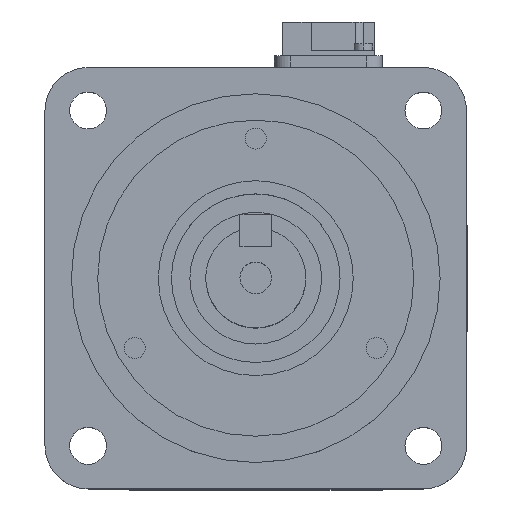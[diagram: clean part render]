
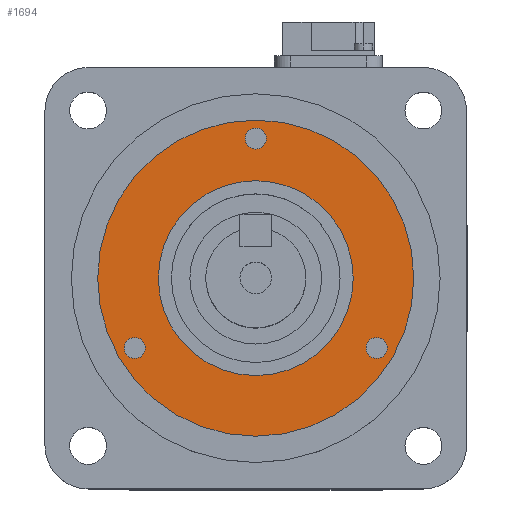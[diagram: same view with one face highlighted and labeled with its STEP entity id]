
A CAD part, top view. The second image highlights one B-rep face of the part: STEP entity #1694.
In plain terms, the highlighted planar face has unit normal (0, 0, 1).
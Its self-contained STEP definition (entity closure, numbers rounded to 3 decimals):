
#1672 = ORIENTED_EDGE ( 'NONE', *, *, #1673, .T. ) ;
#1673 = EDGE_CURVE ( 'NONE', #5113, #5112, #8301, .T. ) ;
#1674 = ORIENTED_EDGE ( 'NONE', *, *, #5111, .T. ) ;
#1675 = EDGE_LOOP ( 'NONE', ( #1676, #1678 ) ) ;
#1676 = ORIENTED_EDGE ( 'NONE', *, *, #1677, .F. ) ;
#1677 = EDGE_CURVE ( 'NONE', #5102, #5099, #8296, .T. ) ;
#1678 = ORIENTED_EDGE ( 'NONE', *, *, #5101, .F. ) ;
#1679 = EDGE_LOOP ( 'NONE', ( #1680, #1682 ) ) ;
#1680 = ORIENTED_EDGE ( 'NONE', *, *, #1681, .F. ) ;
#1681 = EDGE_CURVE ( 'NONE', #5049, #5046, #8291, .T. ) ;
#1682 = ORIENTED_EDGE ( 'NONE', *, *, #5048, .F. ) ;
#1683 = EDGE_LOOP ( 'NONE', ( #1684, #1743 ) ) ;
#1684 = ORIENTED_EDGE ( 'NONE', *, *, #1685, .F. ) ;
#1685 = EDGE_CURVE ( 'NONE', #5060, #5057, #8286, .T. ) ;
#1694 = ADVANCED_FACE ( 'NONE', ( #8335, #8329, #8328, #8327, #8326 ), #8325, .F. ) ;
#1696 = EDGE_LOOP ( 'NONE', ( #1697, #1699 ) ) ;
#1697 = ORIENTED_EDGE ( 'NONE', *, *, #1698, .F. ) ;
#1698 = EDGE_CURVE ( 'NONE', #5035, #5032, #8320, .T. ) ;
#1699 = ORIENTED_EDGE ( 'NONE', *, *, #5034, .F. ) ;
#1700 = EDGE_LOOP ( 'NONE', ( #1672, #1674 ) ) ;
#1743 = ORIENTED_EDGE ( 'NONE', *, *, #5059, .F. ) ;
#5032 = VERTEX_POINT ( 'NONE', #13789 ) ;
#5034 = EDGE_CURVE ( 'NONE', #5032, #5035, #13788, .T. ) ;
#5035 = VERTEX_POINT ( 'NONE', #13783 ) ;
#5046 = VERTEX_POINT ( 'NONE', #13824 ) ;
#5048 = EDGE_CURVE ( 'NONE', #5046, #5049, #13823, .T. ) ;
#5049 = VERTEX_POINT ( 'NONE', #13818 ) ;
#5057 = VERTEX_POINT ( 'NONE', #13799 ) ;
#5059 = EDGE_CURVE ( 'NONE', #5057, #5060, #13798, .T. ) ;
#5060 = VERTEX_POINT ( 'NONE', #14004 ) ;
#5099 = VERTEX_POINT ( 'NONE', #14053 ) ;
#5101 = EDGE_CURVE ( 'NONE', #5099, #5102, #14052, .T. ) ;
#5102 = VERTEX_POINT ( 'NONE', #14047 ) ;
#5111 = EDGE_CURVE ( 'NONE', #5112, #5113, #14093, .T. ) ;
#5112 = VERTEX_POINT ( 'NONE', #14088 ) ;
#5113 = VERTEX_POINT ( 'NONE', #14087 ) ;
#8282 = DIRECTION ( 'NONE',  ( -1., 0., 0. ) ) ;
#8283 = DIRECTION ( 'NONE',  ( 0., 0., 1. ) ) ;
#8284 = CARTESIAN_POINT ( 'NONE',  ( -22.95, -13.25, 2.7 ) ) ;
#8285 = AXIS2_PLACEMENT_3D ( 'NONE', #8284, #8283, #8282 ) ;
#8286 = CIRCLE ( 'NONE', #8285, 2. ) ;
#8287 = DIRECTION ( 'NONE',  ( -1., 0., 0. ) ) ;
#8288 = DIRECTION ( 'NONE',  ( 0., 0., 1. ) ) ;
#8289 = CARTESIAN_POINT ( 'NONE',  ( 0., 26.5, 2.7 ) ) ;
#8290 = AXIS2_PLACEMENT_3D ( 'NONE', #8289, #8288, #8287 ) ;
#8291 = CIRCLE ( 'NONE', #8290, 2. ) ;
#8292 = DIRECTION ( 'NONE',  ( -1., 0., 0. ) ) ;
#8293 = DIRECTION ( 'NONE',  ( 0., 0., -1. ) ) ;
#8294 = CARTESIAN_POINT ( 'NONE',  ( 0., 0., 2.7 ) ) ;
#8295 = AXIS2_PLACEMENT_3D ( 'NONE', #8294, #8293, #8292 ) ;
#8296 = CIRCLE ( 'NONE', #8295, 30. ) ;
#8297 = DIRECTION ( 'NONE',  ( -1., 0., 0. ) ) ;
#8298 = DIRECTION ( 'NONE',  ( 0., 0., -1. ) ) ;
#8299 = CARTESIAN_POINT ( 'NONE',  ( 0., 0., 2.7 ) ) ;
#8300 = AXIS2_PLACEMENT_3D ( 'NONE', #8299, #8298, #8297 ) ;
#8301 = CIRCLE ( 'NONE', #8300, 18.5 ) ;
#8316 = DIRECTION ( 'NONE',  ( -1., 0., 0. ) ) ;
#8317 = DIRECTION ( 'NONE',  ( 0., 0., 1. ) ) ;
#8318 = CARTESIAN_POINT ( 'NONE',  ( 22.95, -13.25, 2.7 ) ) ;
#8319 = AXIS2_PLACEMENT_3D ( 'NONE', #8318, #8317, #8316 ) ;
#8320 = CIRCLE ( 'NONE', #8319, 2. ) ;
#8321 = DIRECTION ( 'NONE',  ( -1., 0., 0. ) ) ;
#8322 = DIRECTION ( 'NONE',  ( 0., 0., -1. ) ) ;
#8323 = CARTESIAN_POINT ( 'NONE',  ( 0., 18.5, 2.7 ) ) ;
#8324 = AXIS2_PLACEMENT_3D ( 'NONE', #8323, #8322, #8321 ) ;
#8325 = PLANE ( 'NONE',  #8324 ) ;
#8326 = FACE_BOUND ( 'NONE', #1683, .T. ) ;
#8327 = FACE_BOUND ( 'NONE', #1679, .T. ) ;
#8328 = FACE_OUTER_BOUND ( 'NONE', #1675, .T. ) ;
#8329 = FACE_BOUND ( 'NONE', #1700, .T. ) ;
#8335 = FACE_BOUND ( 'NONE', #1696, .T. ) ;
#13783 = CARTESIAN_POINT ( 'NONE',  ( 20.95, -13.25, 2.7 ) ) ;
#13784 = DIRECTION ( 'NONE',  ( -1., 0., 0. ) ) ;
#13785 = DIRECTION ( 'NONE',  ( 0., 0., 1. ) ) ;
#13786 = CARTESIAN_POINT ( 'NONE',  ( 22.95, -13.25, 2.7 ) ) ;
#13787 = AXIS2_PLACEMENT_3D ( 'NONE', #13786, #13785, #13784 ) ;
#13788 = CIRCLE ( 'NONE', #13787, 2. ) ;
#13789 = CARTESIAN_POINT ( 'NONE',  ( 24.95, -13.25, 2.7 ) ) ;
#13794 = DIRECTION ( 'NONE',  ( -1., 0., 0. ) ) ;
#13795 = DIRECTION ( 'NONE',  ( 0., 0., 1. ) ) ;
#13796 = CARTESIAN_POINT ( 'NONE',  ( -22.95, -13.25, 2.7 ) ) ;
#13797 = AXIS2_PLACEMENT_3D ( 'NONE', #13796, #13795, #13794 ) ;
#13798 = CIRCLE ( 'NONE', #13797, 2. ) ;
#13799 = CARTESIAN_POINT ( 'NONE',  ( -20.95, -13.25, 2.7 ) ) ;
#13818 = CARTESIAN_POINT ( 'NONE',  ( -2., 26.5, 2.7 ) ) ;
#13819 = DIRECTION ( 'NONE',  ( -1., 0., 0. ) ) ;
#13820 = DIRECTION ( 'NONE',  ( 0., 0., 1. ) ) ;
#13821 = CARTESIAN_POINT ( 'NONE',  ( 0., 26.5, 2.7 ) ) ;
#13822 = AXIS2_PLACEMENT_3D ( 'NONE', #13821, #13820, #13819 ) ;
#13823 = CIRCLE ( 'NONE', #13822, 2. ) ;
#13824 = CARTESIAN_POINT ( 'NONE',  ( 2., 26.5, 2.7 ) ) ;
#14004 = CARTESIAN_POINT ( 'NONE',  ( -24.95, -13.25, 2.7 ) ) ;
#14047 = CARTESIAN_POINT ( 'NONE',  ( -30., 0., 2.7 ) ) ;
#14048 = DIRECTION ( 'NONE',  ( -1., 0., 0. ) ) ;
#14049 = DIRECTION ( 'NONE',  ( 0., 0., -1. ) ) ;
#14050 = CARTESIAN_POINT ( 'NONE',  ( 0., 0., 2.7 ) ) ;
#14051 = AXIS2_PLACEMENT_3D ( 'NONE', #14050, #14049, #14048 ) ;
#14052 = CIRCLE ( 'NONE', #14051, 30. ) ;
#14053 = CARTESIAN_POINT ( 'NONE',  ( 30., 0., 2.7 ) ) ;
#14087 = CARTESIAN_POINT ( 'NONE',  ( -18.5, 0., 2.7 ) ) ;
#14088 = CARTESIAN_POINT ( 'NONE',  ( 18.5, 0., 2.7 ) ) ;
#14089 = DIRECTION ( 'NONE',  ( -1., 0., 0. ) ) ;
#14090 = DIRECTION ( 'NONE',  ( 0., 0., -1. ) ) ;
#14091 = CARTESIAN_POINT ( 'NONE',  ( 0., 0., 2.7 ) ) ;
#14092 = AXIS2_PLACEMENT_3D ( 'NONE', #14091, #14090, #14089 ) ;
#14093 = CIRCLE ( 'NONE', #14092, 18.5 ) ;
